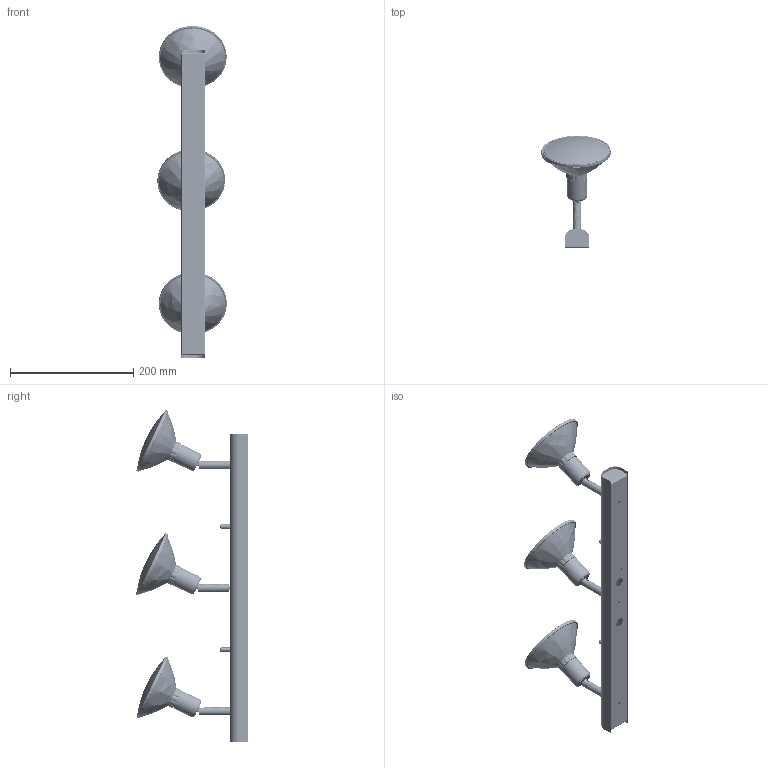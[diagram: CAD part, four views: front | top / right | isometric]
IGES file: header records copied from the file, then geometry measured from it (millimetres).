
Start section: SolidWorks IGES file using analytic representation for surfaces
Global section: file name: C:\Users\Asia\Desktop\IGS CROSS BASIC\basic 500 Bｯ.IGS; native system: SolidWorks 2016; preprocessor: SolidWorks 2016; author: Asia; date: 161021.093844; units: millimetre
Bounding box: 112.57 x 182.26 x 539.22 mm (x, y, z)
Surface area: 393921.5 mm2 (no closed solid volume)
Topology: 0 solids, 0 shells, 2711 faces, 37560 edges, 37427 vertices
Faces by surface type: bspline 1527, revolution 1184
